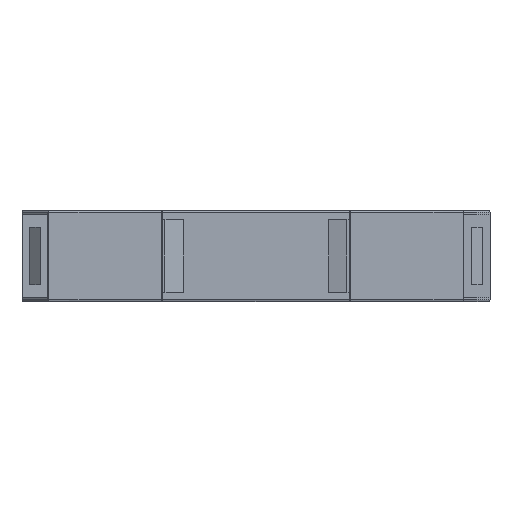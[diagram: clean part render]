
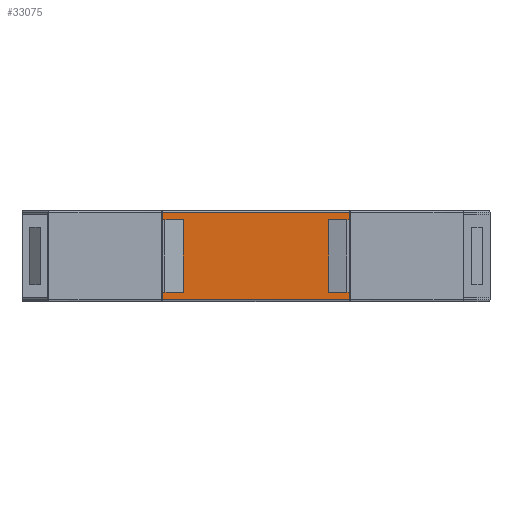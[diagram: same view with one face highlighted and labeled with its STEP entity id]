
A CAD part, front view. The second image highlights one B-rep face of the part: STEP entity #33075.
In plain terms, the highlighted planar face has unit normal (0, -1, 0).
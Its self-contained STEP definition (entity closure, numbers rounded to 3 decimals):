
#1489 = CARTESIAN_POINT ( 'NONE',  ( 63., 5., 0.3 ) ) ;
#1529 = CARTESIAN_POINT ( 'NONE',  ( 85., 5., 16. ) ) ;
#1575 = CARTESIAN_POINT ( 'NONE',  ( 63., 5., 1.5 ) ) ;
#1614 = CARTESIAN_POINT ( 'NONE',  ( 63., 5., 17.2 ) ) ;
#1666 = CARTESIAN_POINT ( 'NONE',  ( 27., 5., 0.3 ) ) ;
#1681 = CARTESIAN_POINT ( 'NONE',  ( 63., 5., 16. ) ) ;
#1696 = CARTESIAN_POINT ( 'NONE',  ( 27., 5., 16. ) ) ;
#1726 = CARTESIAN_POINT ( 'NONE',  ( 5., 5., 1.5 ) ) ;
#1757 = CARTESIAN_POINT ( 'NONE',  ( 85., 5., 1.5 ) ) ;
#1833 = CARTESIAN_POINT ( 'NONE',  ( 27., 5., 17.2 ) ) ;
#2014 = CARTESIAN_POINT ( 'NONE',  ( 5., 5., 16. ) ) ;
#3996 = CARTESIAN_POINT ( 'NONE',  ( 27., 5., 1.5 ) ) ;
#10775 = LINE ( 'NONE', #10776, #29993 ) ;
#10776 = CARTESIAN_POINT ( 'NONE',  ( 63., 5., 17.5 ) ) ;
#10777 = DIRECTION ( 'NONE',  ( 0., 0., -1. ) ) ;
#10781 = LINE ( 'NONE', #10782, #29995 ) ;
#10782 = CARTESIAN_POINT ( 'NONE',  ( 99.916, 5., 1.5 ) ) ;
#10783 = DIRECTION ( 'NONE',  ( -1., 0., 0. ) ) ;
#10785 = LINE ( 'NONE', #10794, #29980 ) ;
#10789 = DIRECTION ( 'NONE',  ( -1., 0., 0. ) ) ;
#10791 = LINE ( 'NONE', #10806, #30002 ) ;
#10794 = CARTESIAN_POINT ( 'NONE',  ( 5., 5., 1.5 ) ) ;
#10795 = DIRECTION ( 'NONE',  ( 0., 0., -1. ) ) ;
#10806 = CARTESIAN_POINT ( 'NONE',  ( 27., 5., 17.5 ) ) ;
#10807 = DIRECTION ( 'NONE',  ( 0., 0., -1. ) ) ;
#10808 = LINE ( 'NONE', #10809, #30009 ) ;
#10809 = CARTESIAN_POINT ( 'NONE',  ( 27., 5., 17.5 ) ) ;
#10818 = DIRECTION ( 'NONE',  ( 0., 0., -1. ) ) ;
#18403 = EDGE_LOOP ( 'NONE', ( #28521, #28522, #28523, #28524, #28525, #28526, #28527, #28528, #28529, #28530, #28531, #28532 ) ) ;
#27040 = EDGE_CURVE ( 'NONE', #27956, #27930, #32061, .T. ) ;
#27042 = EDGE_CURVE ( 'NONE', #27930, #27944, #32085, .T. ) ;
#27044 = EDGE_CURVE ( 'NONE', #27674, #27951, #32091, .T. ) ;
#27046 = EDGE_CURVE ( 'NONE', #27942, #27928, #32097, .T. ) ;
#27048 = EDGE_CURVE ( 'NONE', #27939, #27944, #32103, .T. ) ;
#27050 = EDGE_CURVE ( 'NONE', #27939, #27968, #32109, .T. ) ;
#27138 = EDGE_CURVE ( 'NONE', #27935, #27928, #10775, .T. ) ;
#27140 = EDGE_CURVE ( 'NONE', #27956, #27935, #10781, .T. ) ;
#27142 = EDGE_CURVE ( 'NONE', #27947, #27995, #32371, .T. ) ;
#27144 = EDGE_CURVE ( 'NONE', #27995, #27951, #10785, .T. ) ;
#27148 = EDGE_CURVE ( 'NONE', #27968, #27947, #10791, .T. ) ;
#27152 = EDGE_CURVE ( 'NONE', #27674, #27942, #10808, .T. ) ;
#27674 = VERTEX_POINT ( 'NONE', #3996 ) ;
#27928 = VERTEX_POINT ( 'NONE', #1489 ) ;
#27930 = VERTEX_POINT ( 'NONE', #1529 ) ;
#27935 = VERTEX_POINT ( 'NONE', #1575 ) ;
#27939 = VERTEX_POINT ( 'NONE', #1614 ) ;
#27942 = VERTEX_POINT ( 'NONE', #1666 ) ;
#27944 = VERTEX_POINT ( 'NONE', #1681 ) ;
#27947 = VERTEX_POINT ( 'NONE', #1696 ) ;
#27951 = VERTEX_POINT ( 'NONE', #1726 ) ;
#27956 = VERTEX_POINT ( 'NONE', #1757 ) ;
#27968 = VERTEX_POINT ( 'NONE', #1833 ) ;
#27995 = VERTEX_POINT ( 'NONE', #2014 ) ;
#28521 = ORIENTED_EDGE ( 'NONE', *, *, #27048, .F. ) ;
#28522 = ORIENTED_EDGE ( 'NONE', *, *, #27050, .T. ) ;
#28523 = ORIENTED_EDGE ( 'NONE', *, *, #27148, .T. ) ;
#28524 = ORIENTED_EDGE ( 'NONE', *, *, #27142, .T. ) ;
#28525 = ORIENTED_EDGE ( 'NONE', *, *, #27144, .T. ) ;
#28526 = ORIENTED_EDGE ( 'NONE', *, *, #27044, .F. ) ;
#28527 = ORIENTED_EDGE ( 'NONE', *, *, #27152, .T. ) ;
#28528 = ORIENTED_EDGE ( 'NONE', *, *, #27046, .T. ) ;
#28529 = ORIENTED_EDGE ( 'NONE', *, *, #27138, .F. ) ;
#28530 = ORIENTED_EDGE ( 'NONE', *, *, #27140, .F. ) ;
#28531 = ORIENTED_EDGE ( 'NONE', *, *, #27040, .T. ) ;
#28532 = ORIENTED_EDGE ( 'NONE', *, *, #27042, .T. ) ;
#29876 = VECTOR ( 'NONE', #32082, 1000. ) ;
#29880 = VECTOR ( 'NONE', #32087, 1000. ) ;
#29882 = VECTOR ( 'NONE', #32093, 1000. ) ;
#29884 = VECTOR ( 'NONE', #32099, 1000. ) ;
#29886 = VECTOR ( 'NONE', #32105, 1000. ) ;
#29888 = VECTOR ( 'NONE', #32111, 1000. ) ;
#29980 = VECTOR ( 'NONE', #10795, 1000. ) ;
#29993 = VECTOR ( 'NONE', #10777, 1000. ) ;
#29995 = VECTOR ( 'NONE', #10783, 1000. ) ;
#29997 = VECTOR ( 'NONE', #10789, 1000. ) ;
#30002 = VECTOR ( 'NONE', #10807, 1000. ) ;
#30009 = VECTOR ( 'NONE', #10818, 1000. ) ;
#32061 = LINE ( 'NONE', #32080, #29876 ) ;
#32080 = CARTESIAN_POINT ( 'NONE',  ( 85., 5., 1.5 ) ) ;
#32082 = DIRECTION ( 'NONE',  ( 0., 0., 1. ) ) ;
#32085 = LINE ( 'NONE', #32086, #29880 ) ;
#32086 = CARTESIAN_POINT ( 'NONE',  ( 99.916, 5., 16. ) ) ;
#32087 = DIRECTION ( 'NONE',  ( -1., 0., 0. ) ) ;
#32091 = LINE ( 'NONE', #32092, #29882 ) ;
#32092 = CARTESIAN_POINT ( 'NONE',  ( 99.916, 5., 1.5 ) ) ;
#32093 = DIRECTION ( 'NONE',  ( -1., 0., 0. ) ) ;
#32097 = LINE ( 'NONE', #32098, #29884 ) ;
#32098 = CARTESIAN_POINT ( 'NONE',  ( 63., 5., 0.3 ) ) ;
#32099 = DIRECTION ( 'NONE',  ( 1., 0., 0. ) ) ;
#32103 = LINE ( 'NONE', #32104, #29886 ) ;
#32104 = CARTESIAN_POINT ( 'NONE',  ( 63., 5., 17.5 ) ) ;
#32105 = DIRECTION ( 'NONE',  ( 0., 0., -1. ) ) ;
#32109 = LINE ( 'NONE', #32110, #29888 ) ;
#32110 = CARTESIAN_POINT ( 'NONE',  ( 27., 5., 17.2 ) ) ;
#32111 = DIRECTION ( 'NONE',  ( -1., 0., 0. ) ) ;
#32371 = LINE ( 'NONE', #32372, #29997 ) ;
#32372 = CARTESIAN_POINT ( 'NONE',  ( 99.916, 5., 16. ) ) ;
#33075 = ADVANCED_FACE ( 'NONE', ( #37699 ), #37684, .F. ) ;
#36847 = AXIS2_PLACEMENT_3D ( 'NONE', #37709, #37710, #37711 ) ;
#37684 = PLANE ( 'NONE',  #36847 ) ;
#37699 = FACE_OUTER_BOUND ( 'NONE', #18403, .T. ) ;
#37709 = CARTESIAN_POINT ( 'NONE',  ( 27., 5., 17.5 ) ) ;
#37710 = DIRECTION ( 'NONE',  ( 0., 1., 0. ) ) ;
#37711 = DIRECTION ( 'NONE',  ( 0., 0., 1. ) ) ;
